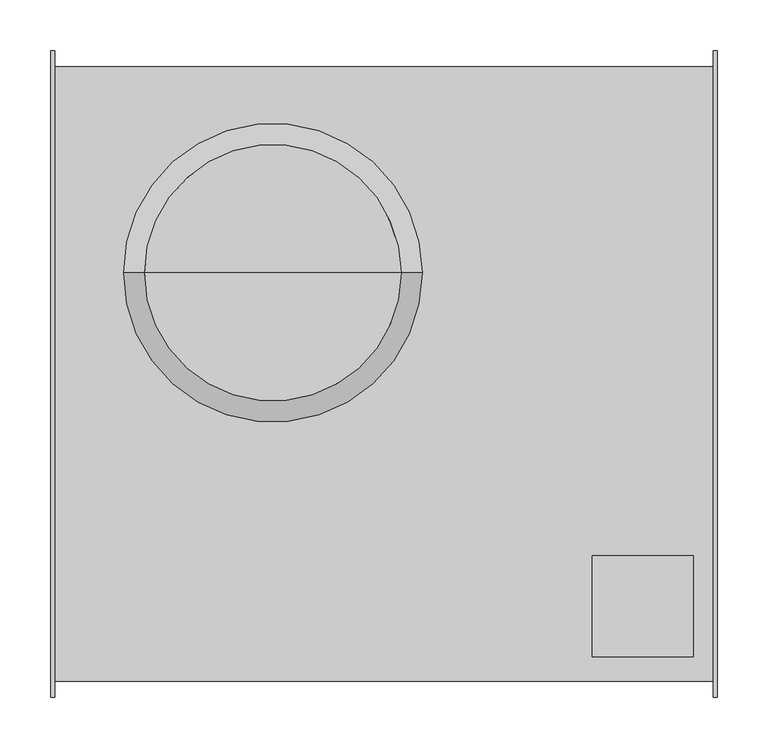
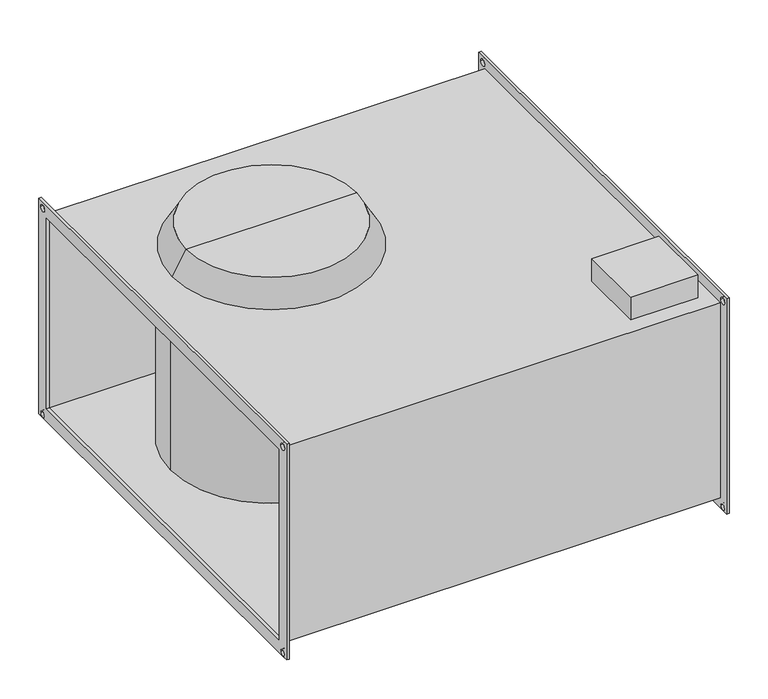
"""IFC4 building model written with IfcOpenShell, lengths in millimetres: proxy geometry."""

from ifc_helpers import new_model, si_unit, frame, origin, place, context, project, spatial, polyline, circle_curve, source, transform, mapped, element, save
from ifc_brep_helpers import plane_surface, cylinder_surface, revolved_surface, advanced_brep


def mechanical_equipment_3a106ff5(model_context):
    return source(origin(), model_context, "Body", "AdvancedBrep", [
        advanced_brep(
        [(326.0, 320.0, 170.0), (326.0, 320.0, -170.0), (326.0, 310.0, -170.0), (326.0, 315.0, -165.0), (326.0, 305.0, -165.0), (326.0, -310.0, -170.0), (326.0, -305.0, -165.0), (326.0, -315.0, -165.0), (326.0, -320.0, -170.0), (326.0, -320.0, 170.0), (326.0, 300.0, 150.0), (326.0, -300.0, 150.0), (326.0, -300.0, -150.0), (326.0, 300.0, -150.0), (326.0, 305.0, 160.0), (326.0, 315.0, 160.0), (326.0, -315.0, 160.0), (326.0, -305.0, 160.0), (330.0, 320.0, 170.0), (330.0, -320.0, 170.0), (330.0, -320.0, -170.0), (330.0, -310.0, -170.0), (330.0, -315.0, -165.0), (330.0, -305.0, -165.0), (330.0, 310.0, -170.0), (330.0, 305.0, -165.0), (330.0, 315.0, -165.0), (330.0, 320.0, -170.0), (330.0, 300.0, 150.0), (330.0, 300.0, -150.0), (330.0, -300.0, -150.0), (330.0, -300.0, 150.0), (330.0, 315.0, 160.0), (330.0, 305.0, 160.0), (330.0, -305.0, 160.0), (330.0, -315.0, 160.0)],
        [
            (0, 1),
            (1, 2),
            (2, 3, circle_curve(frame((326.0, 310.0, -165.0), z_axis=(1.0, 0.0, 0.0), x_axis=(0.0, 1.0, 0.0)), 5.0)),
            (3, 4, circle_curve(frame((326.0, 310.0, -165.0), z_axis=(1.0, 0.0, 0.0), x_axis=(0.0, 1.0, 0.0)), 5.0)),
            (4, 2, circle_curve(frame((326.0, 310.0, -165.0), z_axis=(1.0, 0.0, 0.0), x_axis=(0.0, 1.0, 0.0)), 5.0)),
            (2, 5),
            (5, 6, circle_curve(frame((326.0, -310.0, -165.0), z_axis=(1.0, 0.0, 0.0), x_axis=(0.0, 1.0, 0.0)), 5.0)),
            (6, 7, circle_curve(frame((326.0, -310.0, -165.0), z_axis=(1.0, 0.0, 0.0), x_axis=(0.0, 1.0, 0.0)), 5.0)),
            (7, 5, circle_curve(frame((326.0, -310.0, -165.0), z_axis=(1.0, 0.0, 0.0), x_axis=(0.0, 1.0, 0.0)), 5.0)),
            (5, 8),
            (8, 9),
            (9, 0),
            (10, 11),
            (11, 12),
            (12, 13),
            (13, 10),
            (14, 15, circle_curve(frame((326.0, 310.0, 160.0), z_axis=(1.0, 0.0, 0.0), x_axis=(0.0, 1.0, 0.0)), 5.0)),
            (15, 14, circle_curve(frame((326.0, 310.0, 160.0), z_axis=(1.0, 0.0, 0.0), x_axis=(0.0, 1.0, 0.0)), 5.0)),
            (16, 17, circle_curve(frame((326.0, -310.0, 160.0), z_axis=(1.0, 0.0, 0.0), x_axis=(0.0, 1.0, 0.0)), 5.0)),
            (17, 16, circle_curve(frame((326.0, -310.0, 160.0), z_axis=(1.0, 0.0, 0.0), x_axis=(0.0, 1.0, 0.0)), 5.0)),
            (18, 19),
            (19, 20),
            (20, 21),
            (21, 22, circle_curve(frame((330.0, -310.0, -165.0), z_axis=(-1.0, 0.0, 0.0), x_axis=(0.0, 1.0, 0.0)), 5.0)),
            (22, 23, circle_curve(frame((330.0, -310.0, -165.0), z_axis=(-1.0, 0.0, 0.0), x_axis=(0.0, 1.0, 0.0)), 5.0)),
            (23, 21, circle_curve(frame((330.0, -310.0, -165.0), z_axis=(-1.0, 0.0, 0.0), x_axis=(0.0, 1.0, 0.0)), 5.0)),
            (21, 24),
            (24, 25, circle_curve(frame((330.0, 310.0, -165.0), z_axis=(-1.0, 0.0, 0.0), x_axis=(0.0, 1.0, 0.0)), 5.0)),
            (25, 26, circle_curve(frame((330.0, 310.0, -165.0), z_axis=(-1.0, 0.0, 0.0), x_axis=(0.0, 1.0, 0.0)), 5.0)),
            (26, 24, circle_curve(frame((330.0, 310.0, -165.0), z_axis=(-1.0, 0.0, 0.0), x_axis=(0.0, 1.0, 0.0)), 5.0)),
            (24, 27),
            (27, 18),
            (28, 29),
            (29, 30),
            (30, 31),
            (31, 28),
            (32, 33, circle_curve(frame((330.0, 310.0, 160.0), z_axis=(-1.0, 0.0, 0.0), x_axis=(0.0, 1.0, 0.0)), 5.0)),
            (33, 32, circle_curve(frame((330.0, 310.0, 160.0), z_axis=(-1.0, 0.0, 0.0), x_axis=(0.0, 1.0, 0.0)), 5.0)),
            (34, 35, circle_curve(frame((330.0, -310.0, 160.0), z_axis=(-1.0, 0.0, 0.0), x_axis=(0.0, 1.0, 0.0)), 5.0)),
            (35, 34, circle_curve(frame((330.0, -310.0, 160.0), z_axis=(-1.0, 0.0, 0.0), x_axis=(0.0, 1.0, 0.0)), 5.0)),
            (13, 29),
            (28, 10),
            (12, 30),
            (11, 31),
            (9, 19),
            (18, 0),
            (8, 20),
            (1, 27),
            (14, 33),
            (32, 15),
            (16, 35),
            (34, 17),
            (7, 22),
            (23, 6),
            (4, 25),
            (26, 3),
        ],
        [
            plane_surface(frame((326.0, 300.0, -150.0), z_axis=(-1.0, 0.0, 0.0), x_axis=(0.0, 0.0, 1.0))),
            plane_surface(frame((330.0, 300.0, -150.0), z_axis=(1.0, 0.0, 0.0), x_axis=(0.0, 0.0, -1.0))),
            plane_surface(frame((330.0, 300.0, 150.0), z_axis=(0.0, -1.0, 0.0), x_axis=(-1.0, 0.0, 0.0))),
            plane_surface(frame((330.0, 300.0, -150.0), z_axis=(0.0, 0.0, 1.0), x_axis=(-1.0, 0.0, 0.0))),
            plane_surface(frame((330.0, -300.0, -150.0), z_axis=(0.0, 1.0, 0.0), x_axis=(-1.0, 0.0, 0.0))),
            plane_surface(frame((330.0, -300.0, 150.0), z_axis=(0.0, 0.0, -1.0), x_axis=(-1.0, 0.0, 0.0))),
            plane_surface(frame((330.0, 320.0, 170.0), z_axis=(0.0, 0.0, 1.0), x_axis=(-1.0, 0.0, 0.0))),
            plane_surface(frame((330.0, -320.0, 170.0), z_axis=(0.0, -1.0, 0.0), x_axis=(-1.0, 0.0, 0.0))),
            plane_surface(frame((330.0, -320.0, -170.0), z_axis=(0.0, 0.0, -1.0), x_axis=(-1.0, 0.0, 0.0))),
            plane_surface(frame((330.0, 320.0, -170.0), z_axis=(0.0, 1.0, 0.0), x_axis=(-1.0, 0.0, 0.0))),
            revolved_surface(polyline([(330.0, 315.0, 160.0), (326.0, 315.0, 160.0)]), (-330.0, 310.0, 160.0), (1.0, 0.0, 0.0)),
            revolved_surface(polyline([(330.0, -305.0, 160.0), (326.0, -305.0, 160.0)]), (0.0, -310.0, 160.0), (1.0, 0.0, 0.0)),
            revolved_surface(polyline([(330.0, -305.0, -165.0), (326.0, -305.0, -165.0)]), (0.0, -310.0, -165.0), (1.0, 0.0, 0.0)),
            revolved_surface(polyline([(330.0, 315.0, -165.0), (326.0, 315.0, -165.0)]), (0.0, 310.0, -165.0), (1.0, 0.0, 0.0)),
        ],
        [
            (0, [[1, 2, 3, 4, 5, 6, 7, 8, 9, 10, 11, 12], [13, 14, 15, 16], [17, 18], [19, 20]]),
            (1, [[21, 22, 23, 24, 25, 26, 27, 28, 29, 30, 31, 32], [33, 34, 35, 36], [37, 38], [39, 40]]),
            (2, [[-16, 41, -33, 42]]),
            (3, [[-15, 43, -34, -41]]),
            (4, [[-14, 44, -35, -43]]),
            (5, [[-13, -42, -36, -44]]),
            (6, [[-12, 45, -21, 46]]),
            (7, [[-11, 47, -22, -45]]),
            (8, [[-47, -10, -6, -2, 48, -31, -27, -23]]),
            (9, [[-1, -46, -32, -48]]),
            (10, [[49, -37, 50, -17]]),
            (10, [[-49, -18, -50, -38]]),
            (11, [[51, -39, 52, -19]]),
            (11, [[-51, -20, -52, -40]]),
            (12, [[53, -24, -26, 54, -7, -9]]),
            (12, [[-53, -8, -54, -25]]),
            (13, [[55, -28, -30, 56, -3, -5]]),
            (13, [[-55, -4, -56, -29]]),
        ],
    ),
        advanced_brep(
        [(-330.0, -320.0, 170.0), (-330.0, 320.0, 170.0), (-330.0, 320.0, -170.0), (-330.0, 310.0, -170.0), (-330.0, 315.0, -165.0), (-330.0, 305.0, -165.0), (-330.0, -310.0, -170.0), (-330.0, -305.0, -165.0), (-330.0, -315.0, -165.0), (-330.0, -320.0, -170.0), (-330.0, -300.0, 150.0), (-330.0, -300.0, -150.0), (-330.0, 300.0, -150.0), (-330.0, 300.0, 150.0), (-330.0, 305.0, 160.0), (-330.0, 315.0, 160.0), (-330.0, -315.0, 160.0), (-330.0, -305.0, 160.0), (-326.0, -320.0, 170.0), (-326.0, -320.0, -170.0), (-326.0, -310.0, -170.0), (-326.0, -315.0, -165.0), (-326.0, -305.0, -165.0), (-326.0, 310.0, -170.0), (-326.0, 305.0, -165.0), (-326.0, 315.0, -165.0), (-326.0, 320.0, -170.0), (-326.0, 320.0, 170.0), (-326.0, -300.0, 150.0), (-326.0, 300.0, 150.0), (-326.0, 300.0, -150.0), (-326.0, -300.0, -150.0), (-326.0, 315.0, 160.0), (-326.0, 305.0, 160.0), (-326.0, -305.0, 160.0), (-326.0, -315.0, 160.0)],
        [
            (0, 1),
            (1, 2),
            (2, 3),
            (3, 4, circle_curve(frame((-330.0, 310.0, -165.0), z_axis=(1.0, 0.0, 0.0), x_axis=(0.0, 1.0, 0.0)), 5.0)),
            (4, 5, circle_curve(frame((-330.0, 310.0, -165.0), z_axis=(1.0, 0.0, 0.0), x_axis=(0.0, 1.0, 0.0)), 5.0)),
            (5, 3, circle_curve(frame((-330.0, 310.0, -165.0), z_axis=(1.0, 0.0, 0.0), x_axis=(0.0, 1.0, 0.0)), 5.0)),
            (3, 6),
            (6, 7, circle_curve(frame((-330.0, -310.0, -165.0), z_axis=(1.0, 0.0, 0.0), x_axis=(0.0, 1.0, 0.0)), 5.0)),
            (7, 8, circle_curve(frame((-330.0, -310.0, -165.0), z_axis=(1.0, 0.0, 0.0), x_axis=(0.0, 1.0, 0.0)), 5.0)),
            (8, 6, circle_curve(frame((-330.0, -310.0, -165.0), z_axis=(1.0, 0.0, 0.0), x_axis=(0.0, 1.0, 0.0)), 5.0)),
            (6, 9),
            (9, 0),
            (10, 11),
            (11, 12),
            (12, 13),
            (13, 10),
            (14, 15, circle_curve(frame((-330.0, 310.0, 160.0), z_axis=(1.0, 0.0, 0.0), x_axis=(0.0, 1.0, 0.0)), 5.0)),
            (15, 14, circle_curve(frame((-330.0, 310.0, 160.0), z_axis=(1.0, 0.0, 0.0), x_axis=(0.0, 1.0, 0.0)), 5.0)),
            (16, 17, circle_curve(frame((-330.0, -310.0, 160.0), z_axis=(1.0, 0.0, 0.0), x_axis=(0.0, 1.0, 0.0)), 5.0)),
            (17, 16, circle_curve(frame((-330.0, -310.0, 160.0), z_axis=(1.0, 0.0, 0.0), x_axis=(0.0, 1.0, 0.0)), 5.0)),
            (18, 19),
            (19, 20),
            (20, 21, circle_curve(frame((-326.0, -310.0, -165.0), z_axis=(-1.0, 0.0, 0.0), x_axis=(0.0, 1.0, 0.0)), 5.0)),
            (21, 22, circle_curve(frame((-326.0, -310.0, -165.0), z_axis=(-1.0, 0.0, 0.0), x_axis=(0.0, 1.0, 0.0)), 5.0)),
            (22, 20, circle_curve(frame((-326.0, -310.0, -165.0), z_axis=(-1.0, 0.0, 0.0), x_axis=(0.0, 1.0, 0.0)), 5.0)),
            (20, 23),
            (23, 24, circle_curve(frame((-326.0, 310.0, -165.0), z_axis=(-1.0, 0.0, 0.0), x_axis=(0.0, 1.0, 0.0)), 5.0)),
            (24, 25, circle_curve(frame((-326.0, 310.0, -165.0), z_axis=(-1.0, 0.0, 0.0), x_axis=(0.0, 1.0, 0.0)), 5.0)),
            (25, 23, circle_curve(frame((-326.0, 310.0, -165.0), z_axis=(-1.0, 0.0, 0.0), x_axis=(0.0, 1.0, 0.0)), 5.0)),
            (23, 26),
            (26, 27),
            (27, 18),
            (28, 29),
            (29, 30),
            (30, 31),
            (31, 28),
            (32, 33, circle_curve(frame((-326.0, 310.0, 160.0), z_axis=(-1.0, 0.0, 0.0), x_axis=(0.0, 1.0, 0.0)), 5.0)),
            (33, 32, circle_curve(frame((-326.0, 310.0, 160.0), z_axis=(-1.0, 0.0, 0.0), x_axis=(0.0, 1.0, 0.0)), 5.0)),
            (34, 35, circle_curve(frame((-326.0, -310.0, 160.0), z_axis=(-1.0, 0.0, 0.0), x_axis=(0.0, 1.0, 0.0)), 5.0)),
            (35, 34, circle_curve(frame((-326.0, -310.0, 160.0), z_axis=(-1.0, 0.0, 0.0), x_axis=(0.0, 1.0, 0.0)), 5.0)),
            (9, 19),
            (18, 0),
            (2, 26),
            (1, 27),
            (13, 29),
            (28, 10),
            (12, 30),
            (11, 31),
            (14, 33),
            (32, 15),
            (16, 35),
            (34, 17),
            (8, 21),
            (22, 7),
            (5, 24),
            (25, 4),
        ],
        [
            plane_surface(frame((-330.0, -320.0, 170.0), z_axis=(-1.0, 0.0, 0.0), x_axis=(0.0, 0.0, 1.0))),
            plane_surface(frame((-326.0, -320.0, 170.0), z_axis=(1.0, 0.0, 0.0), x_axis=(0.0, 0.0, -1.0))),
            plane_surface(frame((-326.0, -320.0, 170.0), z_axis=(0.0, -1.0, 0.0), x_axis=(-1.0, 0.0, 0.0))),
            plane_surface(frame((-326.0, -320.0, -170.0), z_axis=(0.0, 0.0, -1.0), x_axis=(-1.0, 0.0, 0.0))),
            plane_surface(frame((-326.0, 320.0, -170.0), z_axis=(0.0, 1.0, 0.0), x_axis=(-1.0, 0.0, 0.0))),
            plane_surface(frame((-326.0, 320.0, 170.0), z_axis=(0.0, 0.0, 1.0), x_axis=(-1.0, 0.0, 0.0))),
            plane_surface(frame((-326.0, -300.0, 150.0), z_axis=(0.0, 0.0, -1.0), x_axis=(-1.0, 0.0, 0.0))),
            plane_surface(frame((-326.0, 300.0, 150.0), z_axis=(0.0, -1.0, 0.0), x_axis=(-1.0, 0.0, 0.0))),
            plane_surface(frame((-326.0, 300.0, -150.0), z_axis=(0.0, 0.0, 1.0), x_axis=(-1.0, 0.0, 0.0))),
            plane_surface(frame((-326.0, -300.0, -150.0), z_axis=(0.0, 1.0, 0.0), x_axis=(-1.0, 0.0, 0.0))),
            revolved_surface(polyline([(-326.0, 315.0, 160.0), (-330.0, 315.0, 160.0)]), (-330.0, 310.0, 160.0), (1.0, 0.0, 0.0)),
            revolved_surface(polyline([(-326.0, -305.0, 160.0), (-330.0, -305.0, 160.0)]), (0.0, -310.0, 160.0), (1.0, 0.0, 0.0)),
            revolved_surface(polyline([(-326.0, -305.0, -165.0), (-330.0, -305.0, -165.0)]), (0.0, -310.0, -165.0), (1.0, 0.0, 0.0)),
            revolved_surface(polyline([(-326.0, 315.0, -165.0), (-330.0, 315.0, -165.0)]), (0.0, 310.0, -165.0), (1.0, 0.0, 0.0)),
        ],
        [
            (0, [[1, 2, 3, 4, 5, 6, 7, 8, 9, 10, 11, 12], [13, 14, 15, 16], [17, 18], [19, 20]]),
            (1, [[21, 22, 23, 24, 25, 26, 27, 28, 29, 30, 31, 32], [33, 34, 35, 36], [37, 38], [39, 40]]),
            (2, [[-12, 41, -21, 42]]),
            (3, [[-41, -11, -7, -3, 43, -30, -26, -22]]),
            (4, [[-2, 44, -31, -43]]),
            (5, [[-1, -42, -32, -44]]),
            (6, [[-16, 45, -33, 46]]),
            (7, [[-15, 47, -34, -45]]),
            (8, [[-14, 48, -35, -47]]),
            (9, [[-13, -46, -36, -48]]),
            (10, [[49, -37, 50, -17]]),
            (10, [[-49, -18, -50, -38]]),
            (11, [[51, -39, 52, -19]]),
            (11, [[-51, -20, -52, -40]]),
            (12, [[53, -23, -25, 54, -8, -10]]),
            (12, [[-53, -9, -54, -24]]),
            (13, [[55, -27, -29, 56, -4, -6]]),
            (13, [[-55, -5, -56, -28]]),
        ],
    ),
        advanced_brep(
        [(-110.0, 100.0, 190.0), (-236.9059892, 100.0, 190.0), (16.9059892, 100.0, 190.0), (-260.0, 100.0, 150.0), (-260.0, 100.0, -150.0), (40.0, 100.0, -150.0), (40.0, 100.0, 150.0), (326.0, -304.0, 154.0), (326.0, -304.0, -154.0), (326.0, 304.0, -154.0), (326.0, 304.0, 154.0), (326.0, 300.0, 150.0), (326.0, 300.0, -150.0), (326.0, -300.0, -150.0), (326.0, -300.0, 150.0), (-326.0, -304.0, 154.0), (-326.0, 304.0, 154.0), (-326.0, 304.0, -154.0), (-326.0, -304.0, -154.0), (-326.0, 300.0, 150.0), (-326.0, -300.0, 150.0), (-326.0, -300.0, -150.0), (-326.0, 300.0, -150.0), (206.0, -180.0, 154.0), (306.0, -180.0, 154.0), (306.0, -280.0, 154.0), (206.0, -280.0, 154.0), (37.6905989, 100.0, 154.0), (-257.6905989, 100.0, 154.0), (306.0, -180.0, 190.0), (206.0, -180.0, 190.0), (206.0, -280.0, 190.0), (306.0, -280.0, 190.0)],
        [
            (0, 1),
            (1, 2, circle_curve(frame((-110.0, 100.0, 190.0), z_axis=(0.0, 0.0, 1.0), x_axis=(-1.0, 0.0, 0.0)), 126.9059892)),
            (2, 0),
            (2, 1, circle_curve(frame((-110.0, 100.0, 190.0), z_axis=(0.0, 0.0, 1.0), x_axis=(-1.0, 0.0, 0.0)), 126.9059892)),
            (3, 4),
            (4, 5, circle_curve(frame((-110.0, 100.0, -150.0), z_axis=(0.0, 0.0, 1.0), x_axis=(-1.0, 0.0, 0.0)), 150.0)),
            (5, 6),
            (6, 3, circle_curve(frame((-110.0, 100.0, 150.0), z_axis=(0.0, 0.0, -1.0), x_axis=(-1.0, 0.0, 0.0)), 150.0)),
            (3, 6, circle_curve(frame((-110.0, 100.0, 150.0), z_axis=(0.0, 0.0, -1.0), x_axis=(-1.0, 0.0, 0.0)), 150.0)),
            (5, 4, circle_curve(frame((-110.0, 100.0, -150.0), z_axis=(0.0, 0.0, 1.0), x_axis=(-1.0, 0.0, 0.0)), 150.0)),
            (7, 8),
            (8, 9),
            (9, 10),
            (10, 7),
            (11, 12),
            (12, 13),
            (13, 14),
            (14, 11),
            (15, 16),
            (16, 17),
            (17, 18),
            (18, 15),
            (19, 20),
            (20, 21),
            (21, 22),
            (22, 19),
            (11, 19),
            (22, 12),
            (21, 13),
            (20, 14),
            (7, 15),
            (18, 8),
            (17, 9),
            (16, 10),
            (23, 24),
            (24, 25),
            (25, 26),
            (26, 23),
            (27, 28, circle_curve(frame((-110.0, 100.0, 154.0), z_axis=(0.0, 0.0, -1.0), x_axis=(-1.0, 0.0, 0.0)), 147.6905989)),
            (28, 27, circle_curve(frame((-110.0, 100.0, 154.0), z_axis=(0.0, 0.0, -1.0), x_axis=(-1.0, 0.0, 0.0)), 147.6905989)),
            (29, 30),
            (30, 31),
            (31, 32),
            (32, 29),
            (29, 24),
            (23, 30),
            (26, 31),
            (25, 32),
            (1, 28),
            (27, 2),
        ],
        [
            plane_surface(frame((-110.0, 100.0, 190.0), z_axis=(0.0, 0.0, 1.0), x_axis=(-1.0, 0.0, 0.0))),
            cylinder_surface(frame((-110.0, 100.0, 2345.3096565), z_axis=(0.0, 0.0, 1.0), x_axis=(-1.0, 0.0, 0.0)), 150.0),
            plane_surface(frame((326.0, 300.0, -150.0), z_axis=(1.0, 0.0, 0.0), x_axis=(0.0, 0.0, -1.0))),
            plane_surface(frame((-326.0, 300.0, -150.0), z_axis=(-1.0, 0.0, 0.0), x_axis=(0.0, 0.0, 1.0))),
            plane_surface(frame((326.0, 300.0, 150.0), z_axis=(0.0, -1.0, 0.0), x_axis=(-1.0, 0.0, 0.0))),
            plane_surface(frame((326.0, 300.0, -150.0), z_axis=(0.0, 0.0, 1.0), x_axis=(-1.0, 0.0, 0.0))),
            plane_surface(frame((326.0, -300.0, -150.0), z_axis=(0.0, 1.0, 0.0), x_axis=(-1.0, 0.0, 0.0))),
            plane_surface(frame((326.0, -300.0, 150.0), z_axis=(0.0, 0.0, -1.0), x_axis=(-1.0, 0.0, 0.0))),
            plane_surface(frame((326.0, -304.0, 154.0), z_axis=(0.0, -1.0, 0.0), x_axis=(-1.0, 0.0, 0.0))),
            plane_surface(frame((326.0, -304.0, -154.0), z_axis=(0.0, 0.0, -1.0), x_axis=(-1.0, 0.0, 0.0))),
            plane_surface(frame((326.0, 304.0, -154.0), z_axis=(0.0, 1.0, 0.0), x_axis=(-1.0, 0.0, 0.0))),
            plane_surface(frame((326.0, 304.0, 154.0), z_axis=(0.0, 0.0, 1.0), x_axis=(-1.0, 0.0, 0.0))),
            plane_surface(frame((206.0, -180.0, 190.0), z_axis=(0.0, 0.0, 1.0), x_axis=(-1.0, 0.0, 0.0))),
            plane_surface(frame((306.0, -180.0, 190.0), z_axis=(0.0, 1.0, 0.0), x_axis=(0.0, 0.0, -1.0))),
            plane_surface(frame((206.0, -180.0, 190.0), z_axis=(-1.0, 0.0, 0.0), x_axis=(0.0, 0.0, -1.0))),
            plane_surface(frame((206.0, -280.0, 190.0), z_axis=(0.0, -1.0, 0.0), x_axis=(0.0, 0.0, -1.0))),
            plane_surface(frame((306.0, -280.0, 190.0), z_axis=(1.0, 0.0, 0.0), x_axis=(0.0, 0.0, -1.0))),
            revolved_surface(polyline([(-260.0, 100.0, 150.0), (-236.9059892, 100.0, 190.0)]), (-110.0, 100.0, 2345.3096565), (0.0, 0.0, 1.0)),
        ],
        [
            (0, [[1, 2, 3]]),
            (0, [[-1, -3, 4]]),
            (1, [[5, 6, 7, 8]]),
            (1, [[-5, 9, -7, 10]]),
            (2, [[11, 12, 13, 14], [15, 16, 17, 18]]),
            (3, [[19, 20, 21, 22], [23, 24, 25, 26]]),
            (4, [[-15, 27, -26, 28]]),
            (5, [[-16, -28, -25, 29], [-6, -10]]),
            (6, [[-17, -29, -24, 30]]),
            (7, [[-18, -30, -23, -27], [-8, -9]]),
            (8, [[-11, 31, -22, 32]]),
            (9, [[-12, -32, -21, 33]]),
            (10, [[-13, -33, -20, 34]]),
            (11, [[-14, -34, -19, -31], [35, 36, 37, 38], [39, 40]]),
            (12, [[41, 42, 43, 44]]),
            (13, [[-41, 45, -35, 46]]),
            (14, [[-42, -46, -38, 47]]),
            (15, [[-43, -47, -37, 48]]),
            (16, [[-44, -48, -36, -45]]),
            (17, [[-2, 49, -39, 50]]),
            (17, [[-4, -50, -40, -49]]),
        ],
    ),
    ])


if __name__ == "__main__":
    model = new_model("IFC4")
    model_context = context("Model", 3, world=origin())
    ifc_project = project(units=[si_unit("LENGTHUNIT", "METRE", prefix="MILLI")], contexts=[model_context])
    site = spatial("IfcSite", under=ifc_project)
    building = spatial("IfcBuilding", under=site)
    placement = place(None, origin())
    mechanical_equipment_shape = mechanical_equipment_3a106ff5(model_context)
    element("IfcBuildingElementProxy", 1, Name="Mechanical Equipment", at=placement, inside=building, context=model_context, shape_type="MappedRepresentation", body=[
        mapped(mechanical_equipment_shape, transform((0.0, 0.0, 0.0), x_axis=(1.0, 0.0, 0.0), y_axis=(0.0, 1.0, 0.0), z_axis=(0.0, 0.0, 1.0))),
    ])
    save(model, "model.ifc")
